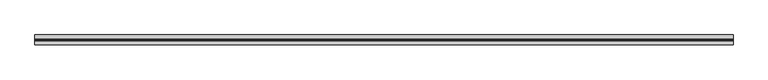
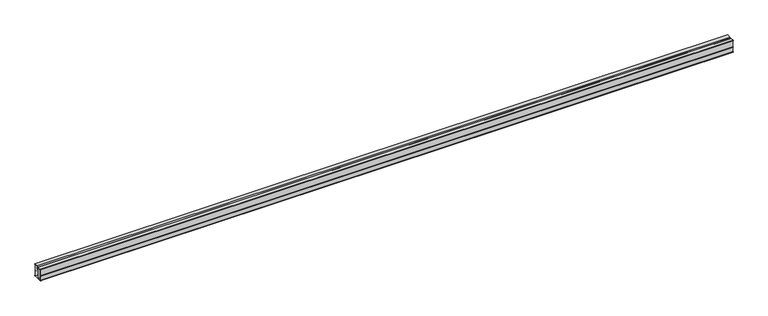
"""IFC4 building model written with IfcOpenShell, lengths in millimetres: proxy geometry, Legar LD5039ALU : Legar LD5039ALU."""

from ifc_helpers import new_model, si_unit, point, frame, frame_2d, origin, place, context, project, spatial, polyline, circle_curve, trimmed, segment, composite_curve, outline, extrude, source, transform, mapped, element, save


def generic_models_0a6fc9aa(model_context):
    return source(origin(), model_context, "Body", "SweptSolid", [
        extrude(outline(composite_curve([segment(polyline([(-18.441317, 40.1088688), (-17.6447159, 40.90547), (-18.4678704, 41.7286245), (-17.6380775, 42.5584174), (-18.4678704, 43.3882103), (-17.6911843, 44.1648964), (-18.4612321, 44.9349442), (-17.6048858, 45.7912905), (-18.6802974, 46.8667021), (-15.5469995, 50.0), (0.0, 50.0), (0.0, 48.5130112), (-2.0578864, 48.5130112), (-2.0578864, 21.3090813), (-0.9028147, 21.3090813), (-0.9028147, 20.260223), (-2.0578864, 20.260223), (-2.0578864, 1.5932023), (0.0265534, 1.5932023), (0.0265534, 0.8098779)]), True, "CONTINUOUS"), segment(trimmed(circle_curve(frame_2d((-0.9163794, 0.953749)), 0.9538454), [point((0.0265534, 0.8098779))], [point((-0.9028147, 0.0))], False, "CARTESIAN"), True, "CONTINUOUS"), segment(polyline([(-0.9028147, 0.0), (-38.4158258, 0.0)]), True, "CONTINUOUS"), segment(trimmed(circle_curve(frame_2d((-38.2944084, 0.6683312)), 0.6792708), [point((-38.4158258, 0.0))], [point((-38.9734466, 0.6505576))], False, "CARTESIAN"), True, "CONTINUOUS"), segment(polyline([(-38.9734466, 0.6505576), (-38.9734466, 1.5268189), (-37.0483271, 1.5268189), (-37.0483271, 20.3398832), (-38.4423792, 20.3398832), (-38.4423792, 21.4020181), (-37.0483271, 21.4020181), (-37.0483271, 48.5262878), (-38.9734466, 48.5262878), (-38.9734466, 50.0398301), (-23.5793946, 50.0398301), (-20.8045672, 47.3313861), (-21.4212441, 46.6995945), (-20.5962163, 45.8943042), (-21.3601958, 45.1115997), (-20.5301582, 44.3014194), (-21.3195719, 43.4926573), (-20.529678, 42.7216603), (-21.3657053, 41.8651422), (-20.5895721, 41.1075767), (-21.4519862, 40.224025), (-20.6428337, 39.4342302), (-21.500545, 38.5554965), (-18.5608072, 38.5554965), (-17.724376, 39.3919278), (-18.441317, 40.1088688)]), True, "CONTINUOUS")], self_intersect=False), holes=[polyline([(-22.5172597, 1.5002655), (-22.5172597, 46.5572857), (-24.5986524, 48.5395645), (-35.5480616, 48.5395645), (-35.5480616, 1.5002655), (-22.5172597, 1.5002655)]), polyline([(-21.0169942, 1.5002655), (-3.5581519, 1.5002655), (-3.5581519, 48.4997345), (-14.5645247, 48.4997345), (-16.5161976, 46.6409984), (-16.5161976, 37.5066383), (-21.0169942, 37.5066383), (-21.0169942, 1.5002655)])]), frame((0.0, 0.0, 0.0), z_axis=(1.0, 0.0, 0.0), x_axis=(0.0, 1.0, 0.0)), (0.0, 0.0, 1.0), 2800.0),
    ])


if __name__ == "__main__":
    model = new_model("IFC4")
    model_context = context("Model", 3, world=origin())
    ifc_project = project(units=[si_unit("LENGTHUNIT", "METRE", prefix="MILLI")], contexts=[model_context])
    site = spatial("IfcSite", under=ifc_project)
    building = spatial("IfcBuilding", under=site)
    placement = place(None, origin())
    generic_models_shape = generic_models_0a6fc9aa(model_context)
    element("IfcBuildingElementProxy", 1, Name="Legar LD5039ALU : Legar LD5039ALU", ObjectType="Legar LD5039ALU : Legar LD5039ALU", at=placement, inside=building, context=model_context, shape_type="MappedRepresentation", body=[
        mapped(generic_models_shape, transform((0.0, 0.0, 0.0), x_axis=(1.0, 0.0, 0.0), y_axis=(0.0, 1.0, 0.0), z_axis=(0.0, 0.0, 1.0))),
    ])
    save(model, "model.ifc")
